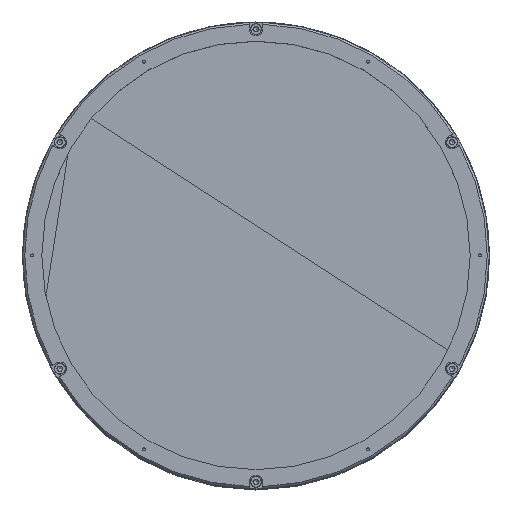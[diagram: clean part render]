
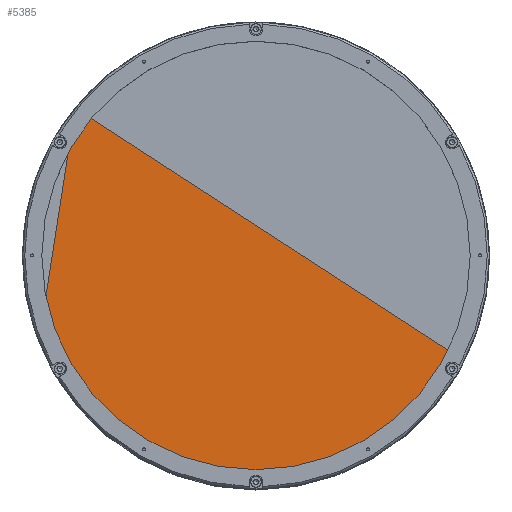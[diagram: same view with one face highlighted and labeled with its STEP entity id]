
A CAD part, top view. The second image highlights one B-rep face of the part: STEP entity #5385.
In plain terms, the highlighted planar face has unit normal (0, 0, 1).
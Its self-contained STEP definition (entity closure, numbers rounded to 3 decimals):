
#2029 = DIRECTION ( 'NONE',  ( -1., 0., 0. ) ) ;
#2764 = EDGE_CURVE ( 'NONE', #18871, #18871, #16242, .T. ) ;
#3238 = DIRECTION ( 'NONE',  ( 0., 0., 1. ) ) ;
#3368 = CARTESIAN_POINT ( 'NONE',  ( 0., 0., 458.38 ) ) ;
#4106 = DIRECTION ( 'NONE',  ( -1., 0., 0. ) ) ;
#5192 = ORIENTED_EDGE ( 'NONE', *, *, #2764, .F. ) ;
#5385 = ADVANCED_FACE ( 'NONE', ( #20700, #16894 ), #19647, .F. ) ;
#8072 = AXIS2_PLACEMENT_3D ( 'NONE', #3368, #13296, #2029 ) ;
#9300 = AXIS2_PLACEMENT_3D ( 'NONE', #17932, #15649, #4106 ) ;
#13054 = CARTESIAN_POINT ( 'NONE',  ( 0., 0., 458.38 ) ) ;
#13296 = DIRECTION ( 'NONE',  ( 0., 0., 1. ) ) ;
#13919 = CARTESIAN_POINT ( 'NONE',  ( -114.9, 0., 458.38 ) ) ;
#14766 = DIRECTION ( 'NONE',  ( 1., 0., 0. ) ) ;
#15649 = DIRECTION ( 'NONE',  ( 0., 0., -1. ) ) ;
#16242 = CIRCLE ( 'NONE', #8072, 114.9 ) ;
#16366 = CIRCLE ( 'NONE', #17704, 115. ) ;
#16671 = EDGE_LOOP ( 'NONE', ( #20888 ) ) ;
#16894 = FACE_BOUND ( 'NONE', #20161, .T. ) ;
#17704 = AXIS2_PLACEMENT_3D ( 'NONE', #13054, #3238, #14766 ) ;
#17850 = CARTESIAN_POINT ( 'NONE',  ( 115., 0., 458.38 ) ) ;
#17932 = CARTESIAN_POINT ( 'NONE',  ( 0., 115., 458.38 ) ) ;
#18871 = VERTEX_POINT ( 'NONE', #13919 ) ;
#19092 = VERTEX_POINT ( 'NONE', #17850 ) ;
#19647 = PLANE ( 'NONE',  #9300 ) ;
#20161 = EDGE_LOOP ( 'NONE', ( #5192 ) ) ;
#20573 = EDGE_CURVE ( 'NONE', #19092, #19092, #16366, .T. ) ;
#20700 = FACE_OUTER_BOUND ( 'NONE', #16671, .T. ) ;
#20888 = ORIENTED_EDGE ( 'NONE', *, *, #20573, .T. ) ;
